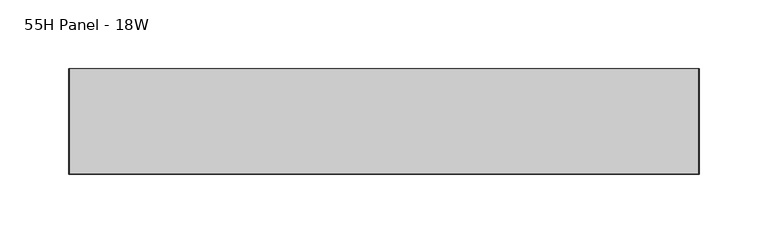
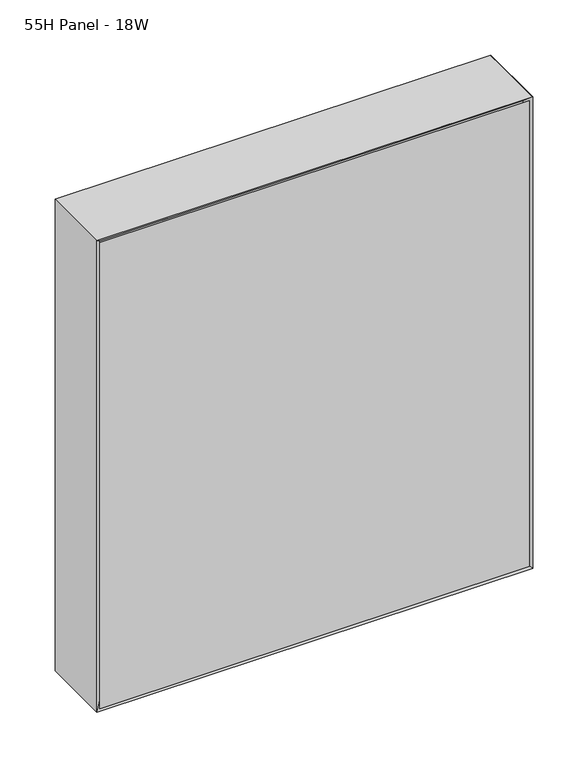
"""IFC4 building model written with IfcOpenShell, lengths in millimetres: furniture geometry, Steelcase - Montage - Frame - 20H - Enhanced Standard - Single Stack-On : 55H Panel - 18W."""

from ifc_helpers import new_model, si_unit, frame, origin, place, context, project, spatial, polyline, outline, extrude, faceted_brep, source, transform, mapped, element, save


def furniture_55h_panel_18w_cc1202ba(model_context):
    return source(origin(), model_context, "Body", "SolidModel", [
        faceted_brep([(447.6750027, 31.7500194, 1912.9374516), (9.5250028, 31.7500194, 1912.9374516), (9.5250028, 31.7500194, 1408.1125), (447.6750027, 31.7500194, 1408.1125), (454.025, 38.1000194, 1919.2874516), (454.025, 38.1000194, 1401.7625), (3.175, 38.1000194, 1401.7625), (3.175, 38.1000194, 1919.2874516)], [[[0, 1, 2, 3]], [[4, 5, 6, 7]], [[4, 0, 3, 5]], [[5, 3, 2, 6]], [[6, 2, 1, 7]], [[7, 1, 0, 4]]]),
        faceted_brep([(447.6750027, -31.7500194, 1912.9374516), (447.6750027, -31.7500194, 1408.1125), (9.5250028, -31.7500194, 1408.1125), (9.5250028, -31.7500194, 1912.9374516), (454.025, -38.1000194, 1919.2874516), (3.175, -38.1000194, 1919.2874516), (3.175, -38.1000194, 1401.7625), (454.025, -38.1000194, 1401.7625)], [[[0, 1, 2, 3]], [[4, 5, 6, 7]], [[4, 7, 1, 0]], [[7, 6, 2, 1]], [[6, 5, 3, 2]], [[5, 4, 0, 3]]]),
        faceted_brep([(457.2, -38.1000015, 1398.5875), (457.2, 38.1000015, 1398.5875), (457.2, 38.1000015, 1922.4624516), (457.2, -38.1000106, 1922.4624515), (0.0, 38.1000015, 1398.5875), (0.0, -38.1000015, 1398.5875), (0.0, -38.1000015, 1922.4624516), (0.0, 38.1000015, 1922.4624516), (6.3500484, 31.749953, 1404.9375484), (450.8499879, 31.749953, 1404.9375484), (6.35, -31.749953, 1404.9375484), (450.8499879, -31.749953, 1404.9375484), (6.3500165, 31.749985, 1916.112435), (6.3500006, -31.7500009, 1916.1124031), (450.8499879, -31.7499979, 1916.1124031), (450.8499879, 31.7499889, 1916.1124394)], [[[0, 1, 2, 3]], [[4, 5, 6, 7]], [[1, 0, 5, 4]], [[1, 4, 8, 9]], [[9, 8, 10, 11]], [[5, 0, 11, 10]], [[4, 7, 12, 8]], [[6, 5, 10, 13]], [[10, 8, 12, 13]], [[9, 11, 14, 15]], [[0, 3, 14, 11]], [[2, 1, 9, 15]], [[3, 2, 15, 14]], [[7, 6, 13, 12]]]),
        faceted_brep([(457.2, -38.1000015, 1922.4624516), (0.0, -38.1000015, 1922.4624516), (6.3500484, -31.749953, 1916.1124031), (450.8499516, -31.749953, 1916.1124031), (6.3500484, 31.749953, 1916.1124031), (450.8499516, 31.749953, 1916.1124031), (0.0, 38.1000015, 1922.4624516), (457.2, 38.1000015, 1922.4624516)], [[[0, 1, 2, 3]], [[3, 2, 4, 5]], [[6, 7, 5, 4]], [[1, 0, 7, 6]], [[2, 1, 6, 4]], [[0, 3, 5, 7]]]),
        extrude(outline(polyline([(450.8499879, 31.7500016), (450.8499879, -31.7499985), (6.35, -31.7499985), (6.35, 31.7500016), (450.8499879, 31.7500016)])), frame((0.0, 0.0, 1404.9327145), z_axis=(0.0, 0.0, 1.0), x_axis=(1.0, 0.0, 0.0)), (0.0, 0.0, 1.0), 511.1796886),
    ])


if __name__ == "__main__":
    model = new_model("IFC4")
    model_context = context("Model", 3, world=origin())
    ifc_project = project(units=[si_unit("LENGTHUNIT", "METRE", prefix="MILLI")], contexts=[model_context])
    site = spatial("IfcSite", under=ifc_project)
    building = spatial("IfcBuilding", under=site)
    placement = place(None, origin())
    furniture_55h_panel_18w_shape = furniture_55h_panel_18w_cc1202ba(model_context)
    element("IfcFurniture", 1, ObjectType="Steelcase - Montage - Frame - 20H - Enhanced Standard - Single Stack-On : 55H Panel - 18W", at=placement, inside=building, context=model_context, shape_type="MappedRepresentation", body=[
        mapped(furniture_55h_panel_18w_shape, transform((0.0, 0.0, 0.0), x_axis=(1.0, 0.0, 0.0), y_axis=(0.0, 1.0, 0.0), z_axis=(0.0, 0.0, 1.0))),
    ])
    save(model, "model.ifc")
